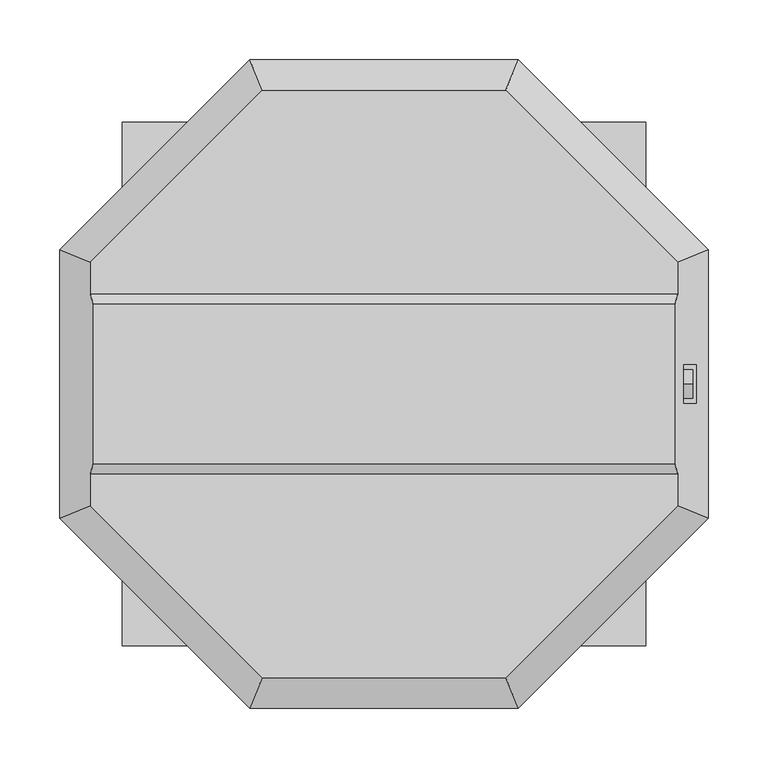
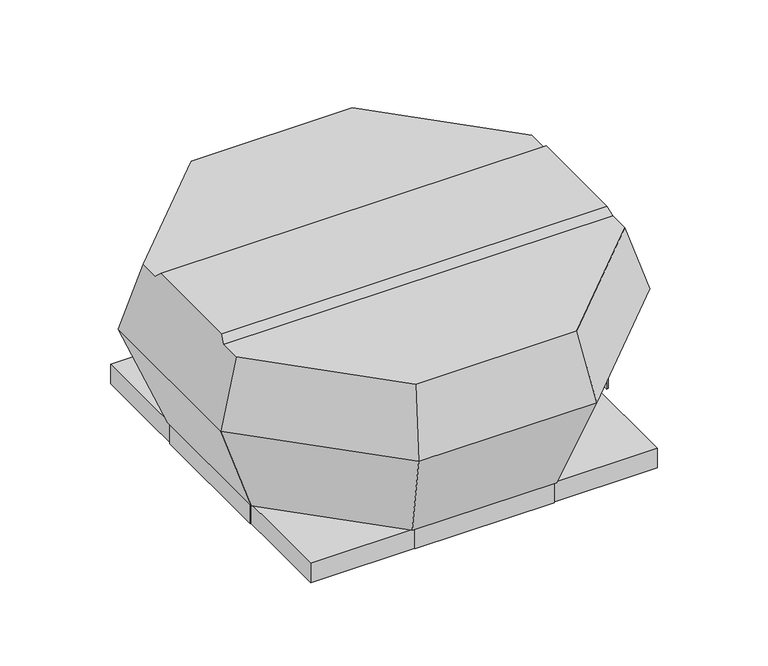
"""IFC4 building model written with IfcOpenShell, lengths in millimetres: unitary equipment geometry, VE-Wentylator-ParaForma-Harmann-VIVER_PS-Wywiewny : 4-280/1100S."""

from ifc_helpers import new_model, si_unit, point, frame, frame_2d, origin, place, context, project, spatial, circle_curve, trimmed, segment, composite_curve, outline, extrude, faceted_brep, source, transform, mapped, element, save


def unitary_equipment_b495a2a0(model_context):
    return source(origin(), model_context, "Body", "SolidModel", [
        faceted_brep([(243.0056659, -66.5, 223.5), (243.0056659, 66.5, 223.5), (-243.0056659, 66.5, 223.5), (-243.0056659, -66.5, 223.5), (245.5255193, 74.9, 215.1), (-245.5255193, 74.9, 215.1), (245.5255193, -74.9, 215.1), (-245.5255193, -74.9, 215.1), (101.7, -245.5255193, 215.1), (245.5255193, -101.7, 215.1), (-245.5255193, -101.7, 215.1), (-101.7, -245.5255193, 215.1), (245.5255193, 101.7, 215.1), (101.7, 245.5255193, 215.1), (-101.7, 245.5255193, 215.1), (-245.5255193, 101.7, 215.1), (112.15, -270.754051, 131.0), (270.754051, -112.15, 131.0), (270.754051, 112.15, 131.0), (260.9746202, -16.0, 163.6), (250.565226, -16.0, 198.3), (250.565226, 16.0, 198.3), (260.9746202, 16.0, 163.6), (112.15, 270.754051, 131.0), (-112.15, 270.754051, 131.0), (-270.754051, 112.15, 131.0), (-270.754051, -112.15, 131.0), (-112.15, -270.754051, 131.0), (247.9, -16.0, 163.6), (247.9, 16.0, 163.6), (247.9, 16.0, 198.3), (247.9, -16.0, 198.3), (91.2, -220.1762769, 1.0), (-91.2, -220.1762769, 1.0), (-220.1762769, -91.2, 1.0), (-220.1762769, 91.2, 1.0), (-91.2, 220.1762769, 1.0), (91.2, 220.1762769, 1.0), (220.1762769, 91.2, 1.0), (220.1762769, -91.2, 1.0)], [[[0, 1, 2, 3]], [[1, 4, 5, 2]], [[6, 0, 3, 7]], [[8, 9, 6, 7, 10, 11]], [[12, 13, 14, 15, 5, 4]], [[9, 8, 16, 17]], [[9, 17, 18, 12, 4, 1, 0, 6], [19, 20, 21, 22]], [[13, 12, 18, 23]], [[14, 13, 23, 24]], [[15, 14, 24, 25]], [[15, 25, 26, 10, 7, 3, 2, 5]], [[11, 10, 26, 27]], [[8, 11, 27, 16]], [[28, 29, 30, 31]], [[28, 31, 20, 19]], [[31, 30, 21, 20]], [[30, 29, 22, 21]], [[29, 28, 19, 22]], [[32, 33, 34, 35, 36, 37, 38, 39]], [[32, 39, 17, 16]], [[39, 38, 18, 17]], [[38, 37, 23, 18]], [[37, 36, 24, 23]], [[36, 35, 25, 24]], [[35, 34, 26, 25]], [[34, 33, 27, 26]], [[33, 32, 16, 27]]]),
        faceted_brep([(217.7, 217.7, -25.0), (217.7, 217.7, 0.0), (-217.7, 217.7, 0.0), (-217.7, 217.7, -25.0), (218.7, 218.7, 1.0), (218.7, 218.7, -25.0), (-218.7, 218.7, -25.0), (-218.7, 218.7, 1.0), (-217.7, -217.7, 0.0), (-217.7, -217.7, -25.0), (-218.7, -218.7, -25.0), (-218.7, -218.7, 1.0), (217.7, -217.7, 0.0), (217.7, -217.7, -25.0), (218.7, -218.7, -25.0), (218.7, -218.7, 1.0)], [[[0, 1, 2, 3]], [[4, 5, 6, 7]], [[3, 2, 8, 9]], [[7, 6, 10, 11]], [[9, 8, 12, 13]], [[11, 10, 14, 15]], [[13, 12, 1, 0]], [[5, 14, 10, 6], [3, 9, 13, 0]], [[15, 14, 5, 4]], [[7, 11, 15, 4]], [[1, 12, 8, 2]]]),
        extrude(outline(composite_curve([segment(trimmed(circle_curve(frame_2d((0.0, 180.9)), 12.0), [point((0.0, 192.9))], [point((0.0, 168.9))], False, "CARTESIAN"), True, "CONTINUOUS"), segment(trimmed(circle_curve(frame_2d((0.0, 180.9)), 12.0), [point((0.0, 168.9))], [point((0.0, 192.9))], False, "CARTESIAN"), True, "CONTINUOUS")], self_intersect=False)), frame((247.9, 0.0, 0.0), z_axis=(1.0, 0.0, 0.0), x_axis=(0.0, 1.0, 0.0)), (0.0, 0.0, 1.0), 10.0),
        faceted_brep([(-218.7, -88.0, -25.0), (-219.7, -88.0, -25.0), (-219.7, 88.0, -25.0), (-218.7, 88.0, -25.0), (-218.7, -88.0, 1.0), (-218.7, 88.0, 1.0), (-219.7, 88.0, 1.0), (-219.7, -88.0, 1.0)], [[[0, 1, 2, 3]], [[4, 5, 6, 7]], [[1, 0, 4, 7]], [[2, 1, 7, 6]], [[3, 2, 6, 5]], [[0, 3, 5, 4]]]),
        faceted_brep([(219.7, -88.0, -25.0), (218.7, -88.0, -25.0), (218.7, 88.0, -25.0), (219.7, 88.0, -25.0), (219.7, 88.0, 1.0), (218.7, 88.0, 1.0), (218.7, -88.0, 1.0), (219.7, -88.0, 1.0), (219.7, -84.8, 1.0), (243.7, -68.1, 1.0), (243.7, 68.1, 1.0), (219.7, 84.8, 1.0), (219.7, 84.8, 0.0), (219.7, -84.8, 0.0), (243.7, 68.1, 0.0), (241.6, 68.1, 0.0), (241.6, -68.1, 0.0), (243.7, -68.1, 0.0), (243.7, -68.1, -19.0), (243.7, 68.1, -19.0), (241.6, -68.1, -19.0), (241.6, 68.1, -19.0)], [[[0, 1, 2, 3]], [[4, 5, 6, 7, 8, 9, 10, 11]], [[1, 0, 7, 6]], [[2, 1, 6, 5]], [[3, 2, 5, 4]], [[0, 3, 4, 11, 12, 13, 8, 7]], [[12, 14, 15, 16, 17, 13]], [[14, 12, 11, 10]], [[10, 9, 17, 18, 19, 14]], [[13, 17, 9, 8]], [[20, 16, 15, 21]], [[16, 20, 18, 17]], [[21, 15, 14, 19]], [[20, 21, 19, 18]]]),
        faceted_brep([(88.0, 218.7, -25.0), (-88.0, 218.7, -25.0), (-88.0, 219.7, -25.0), (88.0, 219.7, -25.0), (88.0, 218.7, 1.0), (88.0, 219.7, 1.0), (-88.0, 219.7, 1.0), (-88.0, 218.7, 1.0)], [[[0, 1, 2, 3]], [[4, 5, 6, 7]], [[1, 0, 4, 7]], [[2, 1, 7, 6]], [[3, 2, 6, 5]], [[0, 3, 5, 4]]]),
        faceted_brep([(88.0, -219.7, -25.0), (-88.0, -219.7, -25.0), (-88.0, -218.7, -25.0), (88.0, -218.7, -25.0), (88.0, -219.7, 1.0), (88.0, -218.7, 1.0), (-88.0, -218.7, 1.0), (-88.0, -219.7, 1.0)], [[[0, 1, 2, 3]], [[4, 5, 6, 7]], [[1, 0, 4, 7]], [[2, 1, 7, 6]], [[3, 2, 6, 5]], [[0, 3, 5, 4]]]),
    ])


if __name__ == "__main__":
    model = new_model("IFC4")
    model_context = context("Model", 3, world=origin())
    ifc_project = project(units=[si_unit("LENGTHUNIT", "METRE", prefix="MILLI")], contexts=[model_context])
    site = spatial("IfcSite", under=ifc_project)
    building = spatial("IfcBuilding", under=site)
    placement = place(None, origin())
    unitary_equipment_shape = unitary_equipment_b495a2a0(model_context)
    element("IfcUnitaryEquipment", 1, ObjectType="VE-Wentylator-ParaForma-Harmann-VIVER_PS-Wywiewny : 4-280/1100S", at=placement, inside=building, context=model_context, shape_type="MappedRepresentation", body=[
        mapped(unitary_equipment_shape, transform((0.0, 0.0, 0.0), x_axis=(1.0, 0.0, 0.0), y_axis=(0.0, 1.0, 0.0), z_axis=(0.0, 0.0, 1.0))),
    ])
    save(model, "model.ifc")
